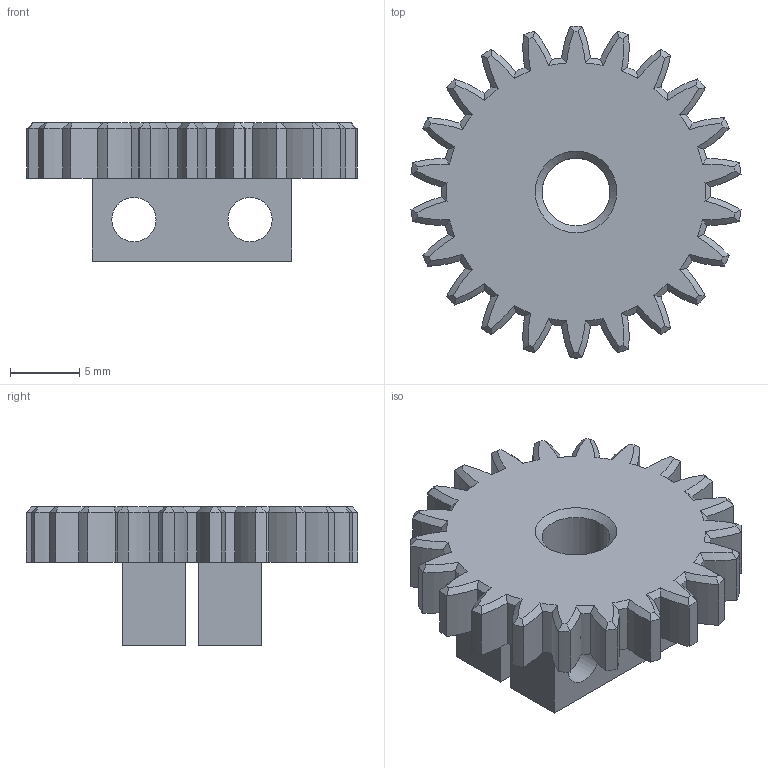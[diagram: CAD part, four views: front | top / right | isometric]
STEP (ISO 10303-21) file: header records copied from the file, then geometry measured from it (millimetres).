
FILE_DESCRIPTION(/* description */ (''),/* implementation_level */ '2;1');
FILE_NAME(/* name */ '\\192.168.3.8\kumagai\Develop\CAD\NakataOmni\DriveUnitR3\MotorDriveGear.stp',/* time_stamp */ '2024-05-21T08:01:08+09:00',/* author */ ('kumagai'),/* organization */ (''),/* preprocessor_version */ 'ST-DEVELOPER v19',/* originating_system */ 'Autodesk Inventor 2023',/* authorisation */ '');
FILE_SCHEMA (('AUTOMOTIVE_DESIGN { 1 0 10303 214 3 1 1 }'));
Length unit declared in the file: millimetre
Products named in the file (1): 平歯車1
Bounding box: 23.86 x 24 x 10 mm (x, y, z)
Volume: 1968.7 mm3; surface area: 1890.8 mm2
Topology: 1 solids, 1 shells, 196 faces, 493 edges, 299 vertices
Faces by surface type: cylinder 93, cone 89, plane 14
Full cylindrical faces by diameter (mm): 3.2 x4, 4.9 x1
Entity records: 6055 total; most frequent: CARTESIAN_POINT 1253, DIRECTION 1078, ORIENTED_EDGE 986, EDGE_CURVE 493, AXIS2_PLACEMENT_3D 476, VERTEX_POINT 299, CIRCLE 279, EDGE_LOOP 206
